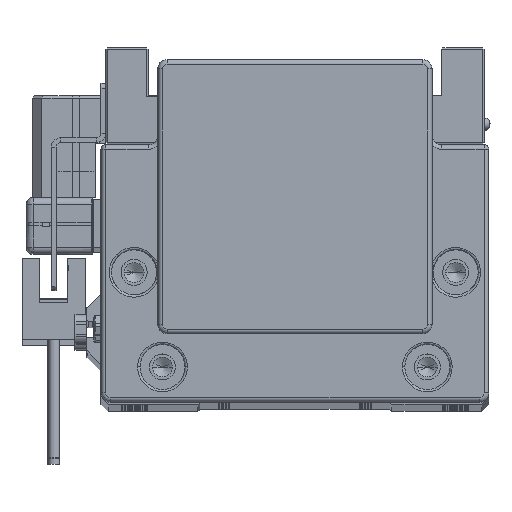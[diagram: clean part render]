
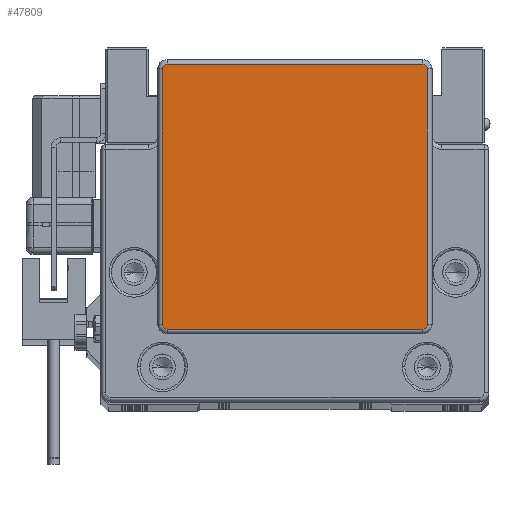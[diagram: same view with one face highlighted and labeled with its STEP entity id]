
A CAD part, top view. The second image highlights one B-rep face of the part: STEP entity #47809.
In plain terms, the highlighted planar face has unit normal (0, 0, 1).
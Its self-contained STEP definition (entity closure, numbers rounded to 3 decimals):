
#1029 = CARTESIAN_POINT ( 'NONE',  ( 27., -20.75, 17. ) ) ;
#2214 = VECTOR ( 'NONE', #16515, 1000. ) ;
#2230 = CARTESIAN_POINT ( 'NONE',  ( -27., -19.75, 17. ) ) ;
#3159 = DIRECTION ( 'NONE',  ( 0., 0., 1. ) ) ;
#3204 = DIRECTION ( 'NONE',  ( -1., 0., 0. ) ) ;
#4273 = ORIENTED_EDGE ( 'NONE', *, *, #14873, .T. ) ;
#4721 = AXIS2_PLACEMENT_3D ( 'NONE', #19279, #15517, #27552 ) ;
#5017 = VERTEX_POINT ( 'NONE', #15121 ) ;
#6077 = VERTEX_POINT ( 'NONE', #27488 ) ;
#8019 = CARTESIAN_POINT ( 'NONE',  ( -28., 34.25, 17. ) ) ;
#8193 = EDGE_CURVE ( 'NONE', #49764, #5017, #39685, .T. ) ;
#8730 = DIRECTION ( 'NONE',  ( 1., 0., 0. ) ) ;
#9513 = EDGE_CURVE ( 'NONE', #6077, #49764, #28966, .T. ) ;
#10835 = CARTESIAN_POINT ( 'NONE',  ( -27., -19.75, 17. ) ) ;
#11647 = DIRECTION ( 'NONE',  ( 0., -1., 0. ) ) ;
#11887 = VECTOR ( 'NONE', #11647, 1000. ) ;
#11889 = AXIS2_PLACEMENT_3D ( 'NONE', #39764, #3159, #31714 ) ;
#12936 = VECTOR ( 'NONE', #3204, 1000. ) ;
#13379 = EDGE_CURVE ( 'NONE', #5017, #39902, #44797, .T. ) ;
#14359 = ORIENTED_EDGE ( 'NONE', *, *, #48293, .T. ) ;
#14503 = CARTESIAN_POINT ( 'NONE',  ( -27., -20.75, 17. ) ) ;
#14873 = EDGE_CURVE ( 'NONE', #39902, #41137, #39263, .T. ) ;
#15121 = CARTESIAN_POINT ( 'NONE',  ( 28., 34.25, 17. ) ) ;
#15517 = DIRECTION ( 'NONE',  ( 0., 0., 1. ) ) ;
#15585 = VERTEX_POINT ( 'NONE', #14503 ) ;
#16086 = ORIENTED_EDGE ( 'NONE', *, *, #9513, .T. ) ;
#16515 = DIRECTION ( 'NONE',  ( 1., 0., 0. ) ) ;
#17405 = CARTESIAN_POINT ( 'NONE',  ( -27., 35.25, 17. ) ) ;
#18052 = CARTESIAN_POINT ( 'NONE',  ( -27., 34.25, 17. ) ) ;
#19279 = CARTESIAN_POINT ( 'NONE',  ( 27., 34.25, 17. ) ) ;
#22790 = ORIENTED_EDGE ( 'NONE', *, *, #42288, .T. ) ;
#25271 = CARTESIAN_POINT ( 'NONE',  ( -28., -19.75, 17. ) ) ;
#26238 = EDGE_LOOP ( 'NONE', ( #4273, #38115, #22790, #14359, #49248, #16086, #32319, #51666 ) ) ;
#26519 = DIRECTION ( 'NONE',  ( 1., 0., 0. ) ) ;
#27488 = CARTESIAN_POINT ( 'NONE',  ( 27., -20.75, 17. ) ) ;
#27552 = DIRECTION ( 'NONE',  ( 1., 0., 0. ) ) ;
#27569 = VECTOR ( 'NONE', #48215, 1000. ) ;
#27893 = FACE_OUTER_BOUND ( 'NONE', #26238, .T. ) ;
#28966 = CIRCLE ( 'NONE', #11889, 1. ) ;
#29346 = AXIS2_PLACEMENT_3D ( 'NONE', #2230, #39085, #26519 ) ;
#31610 = CARTESIAN_POINT ( 'NONE',  ( 27., 35.25, 17. ) ) ;
#31629 = DIRECTION ( 'NONE',  ( 1., 0., 0. ) ) ;
#31714 = DIRECTION ( 'NONE',  ( 1., 0., 0. ) ) ;
#31812 = VERTEX_POINT ( 'NONE', #25271 ) ;
#31898 = DIRECTION ( 'NONE',  ( 0., 0., 1. ) ) ;
#32319 = ORIENTED_EDGE ( 'NONE', *, *, #8193, .T. ) ;
#32680 = AXIS2_PLACEMENT_3D ( 'NONE', #18052, #50157, #8730 ) ;
#32820 = LINE ( 'NONE', #1029, #2214 ) ;
#36000 = EDGE_CURVE ( 'NONE', #15585, #6077, #32820, .T. ) ;
#37978 = EDGE_CURVE ( 'NONE', #41137, #51923, #42078, .T. ) ;
#38115 = ORIENTED_EDGE ( 'NONE', *, *, #37978, .T. ) ;
#39085 = DIRECTION ( 'NONE',  ( 0., 0., 1. ) ) ;
#39263 = LINE ( 'NONE', #39809, #12936 ) ;
#39685 = LINE ( 'NONE', #47682, #27569 ) ;
#39764 = CARTESIAN_POINT ( 'NONE',  ( 27., -19.75, 17. ) ) ;
#39809 = CARTESIAN_POINT ( 'NONE',  ( -27., 35.25, 17. ) ) ;
#39902 = VERTEX_POINT ( 'NONE', #31610 ) ;
#41137 = VERTEX_POINT ( 'NONE', #17405 ) ;
#41917 = CARTESIAN_POINT ( 'NONE',  ( 28., -19.75, 17. ) ) ;
#42078 = CIRCLE ( 'NONE', #32680, 1. ) ;
#42288 = EDGE_CURVE ( 'NONE', #51923, #31812, #51986, .T. ) ;
#44797 = CIRCLE ( 'NONE', #4721, 1. ) ;
#47143 = PLANE ( 'NONE',  #51510 ) ;
#47682 = CARTESIAN_POINT ( 'NONE',  ( 28., 34.25, 17. ) ) ;
#47809 = ADVANCED_FACE ( 'NONE', ( #27893 ), #47143, .T. ) ;
#48150 = CIRCLE ( 'NONE', #29346, 1. ) ;
#48215 = DIRECTION ( 'NONE',  ( 0., 1., 0. ) ) ;
#48242 = CARTESIAN_POINT ( 'NONE',  ( -28., -19.75, 17. ) ) ;
#48293 = EDGE_CURVE ( 'NONE', #31812, #15585, #48150, .T. ) ;
#49248 = ORIENTED_EDGE ( 'NONE', *, *, #36000, .T. ) ;
#49764 = VERTEX_POINT ( 'NONE', #41917 ) ;
#50157 = DIRECTION ( 'NONE',  ( 0., 0., 1. ) ) ;
#51510 = AXIS2_PLACEMENT_3D ( 'NONE', #10835, #31898, #31629 ) ;
#51666 = ORIENTED_EDGE ( 'NONE', *, *, #13379, .T. ) ;
#51923 = VERTEX_POINT ( 'NONE', #8019 ) ;
#51986 = LINE ( 'NONE', #48242, #11887 ) ;
